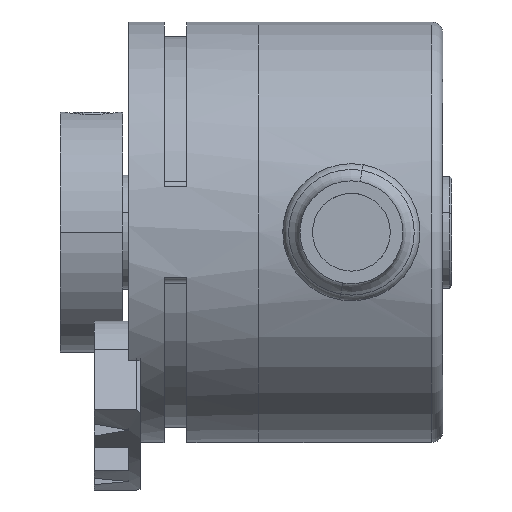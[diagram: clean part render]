
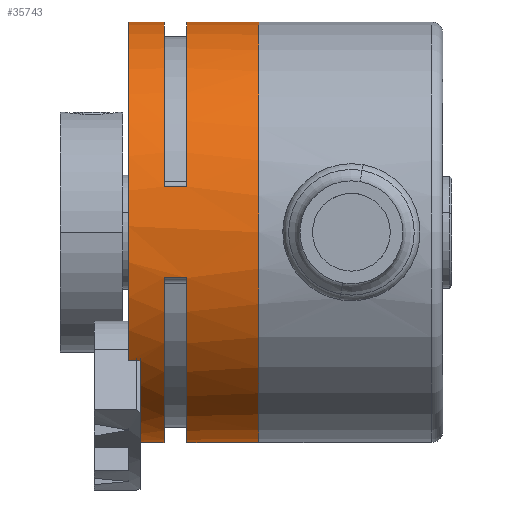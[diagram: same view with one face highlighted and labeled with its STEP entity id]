
A CAD part, front view. The second image highlights one B-rep face of the part: STEP entity #35743.
In plain terms, the highlighted cylindrical face has radius 18.4 mm (diameter 36.8 mm), a partial arc.
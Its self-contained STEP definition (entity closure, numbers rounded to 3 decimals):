
#172 = VERTEX_POINT ( 'NONE', #28978 ) ;
#176 = VERTEX_POINT ( 'NONE', #28976 ) ;
#198 = VERTEX_POINT ( 'NONE', #29055 ) ;
#203 = ORIENTED_EDGE ( 'NONE', *, *, #213, .F. ) ;
#211 = ORIENTED_EDGE ( 'NONE', *, *, #212, .F. ) ;
#212 = EDGE_CURVE ( 'NONE', #176, #198, #29178, .T. ) ;
#213 = EDGE_CURVE ( 'NONE', #198, #172, #29171, .T. ) ;
#231 = VERTEX_POINT ( 'NONE', #29267 ) ;
#243 = EDGE_CURVE ( 'NONE', #172, #1154, #29239, .T. ) ;
#253 = EDGE_CURVE ( 'NONE', #176, #231, #29355, .T. ) ;
#262 = ORIENTED_EDGE ( 'NONE', *, *, #253, .T. ) ;
#287 = EDGE_CURVE ( 'NONE', #35641, #35782, #29601, .T. ) ;
#1081 = EDGE_CURVE ( 'NONE', #1097, #1154, #18135, .T. ) ;
#1084 = EDGE_CURVE ( 'NONE', #35295, #1089, #18189, .T. ) ;
#1089 = VERTEX_POINT ( 'NONE', #18239 ) ;
#1097 = VERTEX_POINT ( 'NONE', #18226 ) ;
#1123 = VERTEX_POINT ( 'NONE', #18346 ) ;
#1132 = EDGE_CURVE ( 'NONE', #36549, #1123, #18366, .T. ) ;
#1154 = VERTEX_POINT ( 'NONE', #18625 ) ;
#1905 = VERTEX_POINT ( 'NONE', #19623 ) ;
#3413 = CARTESIAN_POINT ( 'NONE',  ( 92.56, -17.498, 18.4 ) ) ;
#4483 = DIRECTION ( 'NONE',  ( -1., 0., 0. ) ) ;
#4484 = VECTOR ( 'NONE', #4483, 1000. ) ;
#4485 = CARTESIAN_POINT ( 'NONE',  ( 86.26, -35.458, -4. ) ) ;
#4490 = LINE ( 'NONE', #4485, #4484 ) ;
#4532 = CARTESIAN_POINT ( 'NONE',  ( 84.26, -35.458, -4. ) ) ;
#4535 = CARTESIAN_POINT ( 'NONE',  ( 86.26, -35.458, -4. ) ) ;
#4571 = DIRECTION ( 'NONE',  ( 0., 0., -1. ) ) ;
#4572 = DIRECTION ( 'NONE',  ( 1., 0., 0. ) ) ;
#4573 = CARTESIAN_POINT ( 'NONE',  ( 84.26, -17.498, 0. ) ) ;
#4574 = AXIS2_PLACEMENT_3D ( 'NONE', #4573, #4572, #4571 ) ;
#4575 = CIRCLE ( 'NONE', #4574, 18.4 ) ;
#4751 = DIRECTION ( 'NONE',  ( 0., 0., 1. ) ) ;
#4752 = DIRECTION ( 'NONE',  ( -1., 0., 0. ) ) ;
#4753 = CARTESIAN_POINT ( 'NONE',  ( 81.16, -17.498, 0. ) ) ;
#4754 = AXIS2_PLACEMENT_3D ( 'NONE', #4753, #4752, #4751 ) ;
#4755 = CIRCLE ( 'NONE', #4754, 18.4 ) ;
#4802 = FACE_OUTER_BOUND ( 'NONE', #35717, .T. ) ;
#4838 = DIRECTION ( 'NONE',  ( 0., 0., 1. ) ) ;
#4839 = DIRECTION ( 'NONE',  ( -1., 0., 0. ) ) ;
#4840 = AXIS2_PLACEMENT_3D ( 'NONE', #4843, #4839, #4838 ) ;
#4841 = CYLINDRICAL_SURFACE ( 'NONE', #4840, 18.4 ) ;
#4843 = CARTESIAN_POINT ( 'NONE',  ( 76.76, -17.498, 0. ) ) ;
#4858 = DIRECTION ( 'NONE',  ( -1., 0., 0. ) ) ;
#4859 = VECTOR ( 'NONE', #4858, 1000. ) ;
#4860 = CARTESIAN_POINT ( 'NONE',  ( 86.26, -35.458, 4. ) ) ;
#4861 = LINE ( 'NONE', #4860, #4859 ) ;
#4868 = CARTESIAN_POINT ( 'NONE',  ( 84.26, -35.458, 4. ) ) ;
#4910 = DIRECTION ( 'NONE',  ( -1., 0., 0. ) ) ;
#4911 = VECTOR ( 'NONE', #4910, 1000. ) ;
#4912 = CARTESIAN_POINT ( 'NONE',  ( 76.76, -17.498, -18.4 ) ) ;
#4913 = LINE ( 'NONE', #4912, #4911 ) ;
#4942 = CARTESIAN_POINT ( 'NONE',  ( 86.26, -17.498, -18.4 ) ) ;
#4978 = DIRECTION ( 'NONE',  ( 0., 0., 1. ) ) ;
#4979 = DIRECTION ( 'NONE',  ( -1., 0., 0. ) ) ;
#4980 = CARTESIAN_POINT ( 'NONE',  ( 92.56, -17.498, 0. ) ) ;
#4981 = AXIS2_PLACEMENT_3D ( 'NONE', #4980, #4979, #4978 ) ;
#4982 = CIRCLE ( 'NONE', #4981, 18.4 ) ;
#4983 = DIRECTION ( 'NONE',  ( 0., 0., -1. ) ) ;
#4984 = DIRECTION ( 'NONE',  ( 1., 0., 0. ) ) ;
#4985 = CARTESIAN_POINT ( 'NONE',  ( 86.26, -17.498, 0. ) ) ;
#4986 = AXIS2_PLACEMENT_3D ( 'NONE', #4985, #4984, #4983 ) ;
#4987 = CIRCLE ( 'NONE', #4986, 18.4 ) ;
#4988 = CARTESIAN_POINT ( 'NONE',  ( 86.26, -35.458, 4. ) ) ;
#5180 = DIRECTION ( 'NONE',  ( 0., 0., -1. ) ) ;
#5181 = DIRECTION ( 'NONE',  ( 1., 0., 0. ) ) ;
#5182 = CARTESIAN_POINT ( 'NONE',  ( 84.26, -17.498, 0. ) ) ;
#5183 = AXIS2_PLACEMENT_3D ( 'NONE', #5182, #5181, #5180 ) ;
#5184 = CIRCLE ( 'NONE', #5183, 18.4 ) ;
#7892 = CARTESIAN_POINT ( 'NONE',  ( 84.26, -17.498, -18.4 ) ) ;
#18131 = DIRECTION ( 'NONE',  ( -1., 0., 0. ) ) ;
#18132 = VECTOR ( 'NONE', #18131, 1000. ) ;
#18134 = CARTESIAN_POINT ( 'NONE',  ( 76.76, -17.498, 18.4 ) ) ;
#18135 = LINE ( 'NONE', #18134, #18132 ) ;
#18186 = DIRECTION ( 'NONE',  ( -1., 0., 0. ) ) ;
#18187 = VECTOR ( 'NONE', #18186, 1000. ) ;
#18188 = CARTESIAN_POINT ( 'NONE',  ( 76.76, -17.498, 18.4 ) ) ;
#18189 = LINE ( 'NONE', #18188, #18187 ) ;
#18226 = CARTESIAN_POINT ( 'NONE',  ( 84.26, -17.498, 18.4 ) ) ;
#18239 = CARTESIAN_POINT ( 'NONE',  ( 86.26, -17.498, 18.4 ) ) ;
#18346 = CARTESIAN_POINT ( 'NONE',  ( 81.16, -17.498, -18.4 ) ) ;
#18366 = LINE ( 'NONE', #18461, #18459 ) ;
#18458 = DIRECTION ( 'NONE',  ( -1., 0., 0. ) ) ;
#18459 = VECTOR ( 'NONE', #18458, 1000. ) ;
#18461 = CARTESIAN_POINT ( 'NONE',  ( 76.76, -17.498, -18.4 ) ) ;
#18625 = CARTESIAN_POINT ( 'NONE',  ( 81.16, -17.498, 18.4 ) ) ;
#19623 = CARTESIAN_POINT ( 'NONE',  ( 92.56, -17.498, -18.4 ) ) ;
#28976 = CARTESIAN_POINT ( 'NONE',  ( 82.16, -19.944, -18.237 ) ) ;
#28978 = CARTESIAN_POINT ( 'NONE',  ( 81.16, -32.069, -11.237 ) ) ;
#29055 = CARTESIAN_POINT ( 'NONE',  ( 82.16, -32.069, -11.237 ) ) ;
#29167 = DIRECTION ( 'NONE',  ( -1., 0., 0. ) ) ;
#29168 = VECTOR ( 'NONE', #29167, 1000. ) ;
#29169 = CARTESIAN_POINT ( 'NONE',  ( 82.16, -32.069, -11.237 ) ) ;
#29171 = LINE ( 'NONE', #29169, #29168 ) ;
#29173 = DIRECTION ( 'NONE',  ( 0., 0., 1. ) ) ;
#29174 = DIRECTION ( 'NONE',  ( -1., 0., 0. ) ) ;
#29176 = CARTESIAN_POINT ( 'NONE',  ( 82.16, -17.498, 0. ) ) ;
#29177 = AXIS2_PLACEMENT_3D ( 'NONE', #29176, #29174, #29173 ) ;
#29178 = CIRCLE ( 'NONE', #29177, 18.4 ) ;
#29235 = DIRECTION ( 'NONE',  ( 0., 0., 1. ) ) ;
#29236 = DIRECTION ( 'NONE',  ( -1., 0., 0. ) ) ;
#29237 = CARTESIAN_POINT ( 'NONE',  ( 81.16, -17.498, 0. ) ) ;
#29238 = AXIS2_PLACEMENT_3D ( 'NONE', #29237, #29236, #29235 ) ;
#29239 = CIRCLE ( 'NONE', #29238, 18.4 ) ;
#29267 = CARTESIAN_POINT ( 'NONE',  ( 81.16, -19.944, -18.237 ) ) ;
#29351 = DIRECTION ( 'NONE',  ( -1., 0., 0. ) ) ;
#29353 = VECTOR ( 'NONE', #29351, 1000. ) ;
#29354 = CARTESIAN_POINT ( 'NONE',  ( 82.16, -19.944, -18.237 ) ) ;
#29355 = LINE ( 'NONE', #29354, #29353 ) ;
#29596 = DIRECTION ( 'NONE',  ( 0., 0., -1. ) ) ;
#29597 = DIRECTION ( 'NONE',  ( 1., 0., 0. ) ) ;
#29599 = AXIS2_PLACEMENT_3D ( 'NONE', #29611, #29597, #29596 ) ;
#29601 = CIRCLE ( 'NONE', #29599, 18.4 ) ;
#29611 = CARTESIAN_POINT ( 'NONE',  ( 86.26, -17.498, 0. ) ) ;
#35295 = VERTEX_POINT ( 'NONE', #3413 ) ;
#35622 = EDGE_CURVE ( 'NONE', #35641, #35644, #4490, .T. ) ;
#35623 = ORIENTED_EDGE ( 'NONE', *, *, #35622, .F. ) ;
#35627 = ORIENTED_EDGE ( 'NONE', *, *, #35648, .F. ) ;
#35641 = VERTEX_POINT ( 'NONE', #4535 ) ;
#35644 = VERTEX_POINT ( 'NONE', #4532 ) ;
#35646 = ORIENTED_EDGE ( 'NONE', *, *, #287, .T. ) ;
#35648 = EDGE_CURVE ( 'NONE', #35644, #36549, #4575, .T. ) ;
#35708 = ORIENTED_EDGE ( 'NONE', *, *, #1132, .F. ) ;
#35713 = ORIENTED_EDGE ( 'NONE', *, *, #35718, .F. ) ;
#35717 = EDGE_LOOP ( 'NONE', ( #35769, #35760, #35797, #35792, #35790, #35870, #35850, #35857, #203, #211, #262, #35713, #35708, #35627, #35623, #35646 ) ) ;
#35718 = EDGE_CURVE ( 'NONE', #1123, #231, #4755, .T. ) ;
#35743 = ADVANCED_FACE ( 'NONE', ( #4802 ), #4841, .T. ) ;
#35755 = VERTEX_POINT ( 'NONE', #4868 ) ;
#35760 = ORIENTED_EDGE ( 'NONE', *, *, #35794, .T. ) ;
#35764 = EDGE_CURVE ( 'NONE', #35791, #35755, #4861, .T. ) ;
#35769 = ORIENTED_EDGE ( 'NONE', *, *, #35775, .F. ) ;
#35775 = EDGE_CURVE ( 'NONE', #1905, #35782, #4913, .T. ) ;
#35782 = VERTEX_POINT ( 'NONE', #4942 ) ;
#35790 = ORIENTED_EDGE ( 'NONE', *, *, #35764, .T. ) ;
#35791 = VERTEX_POINT ( 'NONE', #4988 ) ;
#35792 = ORIENTED_EDGE ( 'NONE', *, *, #35793, .T. ) ;
#35793 = EDGE_CURVE ( 'NONE', #1089, #35791, #4987, .T. ) ;
#35794 = EDGE_CURVE ( 'NONE', #1905, #35295, #4982, .T. ) ;
#35797 = ORIENTED_EDGE ( 'NONE', *, *, #1084, .T. ) ;
#35850 = ORIENTED_EDGE ( 'NONE', *, *, #1081, .T. ) ;
#35857 = ORIENTED_EDGE ( 'NONE', *, *, #243, .F. ) ;
#35862 = EDGE_CURVE ( 'NONE', #1097, #35755, #5184, .T. ) ;
#35870 = ORIENTED_EDGE ( 'NONE', *, *, #35862, .F. ) ;
#36549 = VERTEX_POINT ( 'NONE', #7892 ) ;
